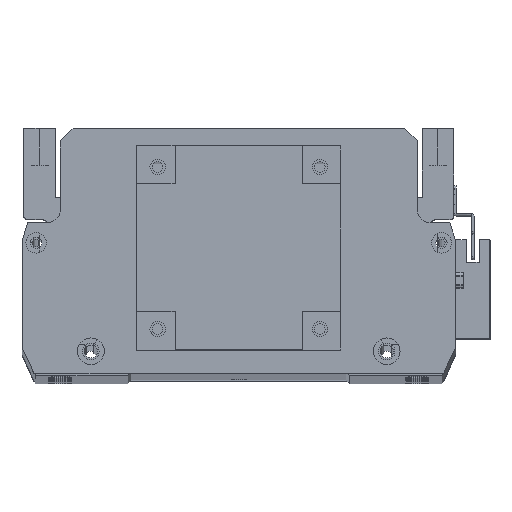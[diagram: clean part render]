
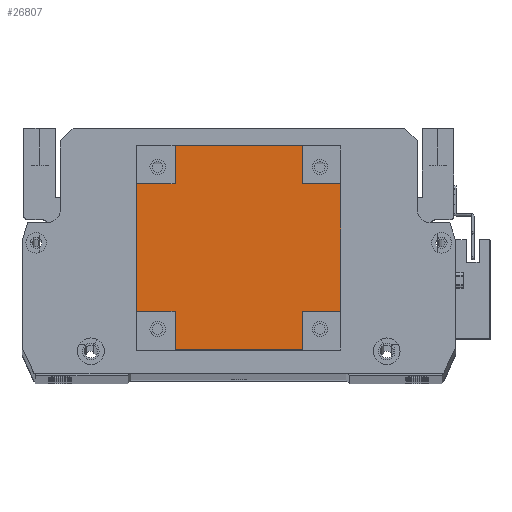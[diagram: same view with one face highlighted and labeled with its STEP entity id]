
A CAD part, top view. The second image highlights one B-rep face of the part: STEP entity #26807.
In plain terms, the highlighted planar face has unit normal (0, 0, 1).
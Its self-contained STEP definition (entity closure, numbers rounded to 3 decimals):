
#14 = EDGE_CURVE ( 'NONE', #22137, #6790, #9284, .T. ) ;
#73 = EDGE_CURVE ( 'NONE', #1148, #6790, #18926, .T. ) ;
#111 = EDGE_CURVE ( 'NONE', #22118, #1148, #6465, .T. ) ;
#119 = EDGE_CURVE ( 'NONE', #209, #14452, #7857, .T. ) ;
#156 = EDGE_CURVE ( 'NONE', #9659, #209, #11057, .T. ) ;
#163 = EDGE_CURVE ( 'NONE', #2605, #4735, #21919, .T. ) ;
#201 = EDGE_CURVE ( 'NONE', #27474, #2605, #26276, .T. ) ;
#209 = VERTEX_POINT ( 'NONE', #7306 ) ;
#210 = EDGE_CURVE ( 'NONE', #28107, #26036, #14114, .T. ) ;
#258 = EDGE_CURVE ( 'NONE', #22137, #28107, #24932, .T. ) ;
#1089 = CARTESIAN_POINT ( 'NONE',  ( 0., 0., 101.5 ) ) ;
#1148 = VERTEX_POINT ( 'NONE', #13834 ) ;
#2006 = CARTESIAN_POINT ( 'NONE',  ( 65., 0., 101.5 ) ) ;
#2052 = FACE_OUTER_BOUND ( 'NONE', #23223, .T. ) ;
#2268 = CARTESIAN_POINT ( 'NONE',  ( 0., 0., 101.5 ) ) ;
#2448 = DIRECTION ( 'NONE',  ( 0., -1., 0. ) ) ;
#2605 = VERTEX_POINT ( 'NONE', #26346 ) ;
#3364 = CARTESIAN_POINT ( 'NONE',  ( 65., 0., 101.5 ) ) ;
#3544 = DIRECTION ( 'NONE',  ( 1., 0., 0. ) ) ;
#3660 = DIRECTION ( 'NONE',  ( -1., 0., 0. ) ) ;
#4057 = ORIENTED_EDGE ( 'NONE', *, *, #28115, .T. ) ;
#4380 = VECTOR ( 'NONE', #20163, 1000. ) ;
#4384 = DIRECTION ( 'NONE',  ( 0., -1., 0. ) ) ;
#4493 = CARTESIAN_POINT ( 'NONE',  ( 0., 15., 101.5 ) ) ;
#4735 = VERTEX_POINT ( 'NONE', #3364 ) ;
#5719 = VECTOR ( 'NONE', #3544, 1000. ) ;
#5764 = VECTOR ( 'NONE', #12038, 1000. ) ;
#6465 = LINE ( 'NONE', #13119, #17532 ) ;
#6530 = CARTESIAN_POINT ( 'NONE',  ( 80., 15., 101.5 ) ) ;
#6747 = CARTESIAN_POINT ( 'NONE',  ( 80., 0., 101.5 ) ) ;
#6790 = VERTEX_POINT ( 'NONE', #8465 ) ;
#7306 = CARTESIAN_POINT ( 'NONE',  ( 15., 15., 101.5 ) ) ;
#7334 = ORIENTED_EDGE ( 'NONE', *, *, #111, .F. ) ;
#7526 = ORIENTED_EDGE ( 'NONE', *, *, #201, .F. ) ;
#7654 = ORIENTED_EDGE ( 'NONE', *, *, #27666, .T. ) ;
#7818 = LINE ( 'NONE', #1089, #5719 ) ;
#7857 = LINE ( 'NONE', #15569, #5764 ) ;
#7868 = DIRECTION ( 'NONE',  ( 1., 0., 0. ) ) ;
#8217 = VECTOR ( 'NONE', #7868, 1000. ) ;
#8218 = CARTESIAN_POINT ( 'NONE',  ( 65., 65., 101.5 ) ) ;
#8275 = CARTESIAN_POINT ( 'NONE',  ( 80., 65., 101.5 ) ) ;
#8465 = CARTESIAN_POINT ( 'NONE',  ( 15., 80., 101.5 ) ) ;
#8577 = VECTOR ( 'NONE', #18475, 1000. ) ;
#9284 = LINE ( 'NONE', #16649, #8577 ) ;
#9473 = CARTESIAN_POINT ( 'NONE',  ( 0., 0., 101.5 ) ) ;
#9659 = VERTEX_POINT ( 'NONE', #12054 ) ;
#9811 = CARTESIAN_POINT ( 'NONE',  ( 65., 80., 101.5 ) ) ;
#10362 = VECTOR ( 'NONE', #2448, 1000. ) ;
#10432 = ORIENTED_EDGE ( 'NONE', *, *, #163, .F. ) ;
#10645 = ORIENTED_EDGE ( 'NONE', *, *, #156, .F. ) ;
#11057 = LINE ( 'NONE', #13979, #23254 ) ;
#11194 = CARTESIAN_POINT ( 'NONE',  ( 65., 65., 101.5 ) ) ;
#11682 = ORIENTED_EDGE ( 'NONE', *, *, #119, .F. ) ;
#11714 = DIRECTION ( 'NONE',  ( 0., 0., -1. ) ) ;
#12038 = DIRECTION ( 'NONE',  ( -1., 0., 0. ) ) ;
#12054 = CARTESIAN_POINT ( 'NONE',  ( 15., 0., 101.5 ) ) ;
#12087 = ORIENTED_EDGE ( 'NONE', *, *, #14, .T. ) ;
#12238 = DIRECTION ( 'NONE',  ( 1., 0., 0. ) ) ;
#12418 = VECTOR ( 'NONE', #13654, 1000. ) ;
#12545 = CARTESIAN_POINT ( 'NONE',  ( 65., 80., 101.5 ) ) ;
#13119 = CARTESIAN_POINT ( 'NONE',  ( 0., 65., 101.5 ) ) ;
#13515 = DIRECTION ( 'NONE',  ( 0., 1., 0. ) ) ;
#13654 = DIRECTION ( 'NONE',  ( 0., 1., 0. ) ) ;
#13708 = CARTESIAN_POINT ( 'NONE',  ( 15., 80., 101.5 ) ) ;
#13802 = PLANE ( 'NONE',  #27829 ) ;
#13834 = CARTESIAN_POINT ( 'NONE',  ( 15., 65., 101.5 ) ) ;
#13979 = CARTESIAN_POINT ( 'NONE',  ( 15., 0., 101.5 ) ) ;
#14114 = LINE ( 'NONE', #8218, #8217 ) ;
#14254 = CARTESIAN_POINT ( 'NONE',  ( 80., 15., 101.5 ) ) ;
#14452 = VERTEX_POINT ( 'NONE', #4493 ) ;
#14797 = VECTOR ( 'NONE', #3660, 1000. ) ;
#15569 = CARTESIAN_POINT ( 'NONE',  ( 0., 15., 101.5 ) ) ;
#16184 = LINE ( 'NONE', #2268, #4380 ) ;
#16649 = CARTESIAN_POINT ( 'NONE',  ( 0., 80., 101.5 ) ) ;
#17532 = VECTOR ( 'NONE', #12238, 1000. ) ;
#17687 = ORIENTED_EDGE ( 'NONE', *, *, #73, .F. ) ;
#17833 = VECTOR ( 'NONE', #26405, 1000. ) ;
#18475 = DIRECTION ( 'NONE',  ( -1., 0., 0. ) ) ;
#18557 = VECTOR ( 'NONE', #4384, 1000. ) ;
#18926 = LINE ( 'NONE', #13708, #12418 ) ;
#20163 = DIRECTION ( 'NONE',  ( 0., -1., 0. ) ) ;
#21528 = ORIENTED_EDGE ( 'NONE', *, *, #26226, .T. ) ;
#21919 = LINE ( 'NONE', #2006, #10362 ) ;
#22118 = VERTEX_POINT ( 'NONE', #24890 ) ;
#22137 = VERTEX_POINT ( 'NONE', #9811 ) ;
#22734 = ORIENTED_EDGE ( 'NONE', *, *, #258, .F. ) ;
#23223 = EDGE_LOOP ( 'NONE', ( #12087, #17687, #7334, #21528, #11682, #10645, #7654, #10432, #7526, #4057, #25769, #22734 ) ) ;
#23254 = VECTOR ( 'NONE', #13515, 1000. ) ;
#24890 = CARTESIAN_POINT ( 'NONE',  ( 0., 65., 101.5 ) ) ;
#24894 = LINE ( 'NONE', #6747, #17833 ) ;
#24932 = LINE ( 'NONE', #12545, #18557 ) ;
#25769 = ORIENTED_EDGE ( 'NONE', *, *, #210, .F. ) ;
#26036 = VERTEX_POINT ( 'NONE', #8275 ) ;
#26226 = EDGE_CURVE ( 'NONE', #22118, #14452, #16184, .T. ) ;
#26276 = LINE ( 'NONE', #6530, #14797 ) ;
#26346 = CARTESIAN_POINT ( 'NONE',  ( 65., 15., 101.5 ) ) ;
#26405 = DIRECTION ( 'NONE',  ( 0., 1., 0. ) ) ;
#26807 = ADVANCED_FACE ( 'NONE', ( #2052 ), #13802, .F. ) ;
#26825 = DIRECTION ( 'NONE',  ( -1., 0., 0. ) ) ;
#27474 = VERTEX_POINT ( 'NONE', #14254 ) ;
#27666 = EDGE_CURVE ( 'NONE', #9659, #4735, #7818, .T. ) ;
#27829 = AXIS2_PLACEMENT_3D ( 'NONE', #9473, #11714, #26825 ) ;
#28107 = VERTEX_POINT ( 'NONE', #11194 ) ;
#28115 = EDGE_CURVE ( 'NONE', #27474, #26036, #24894, .T. ) ;
